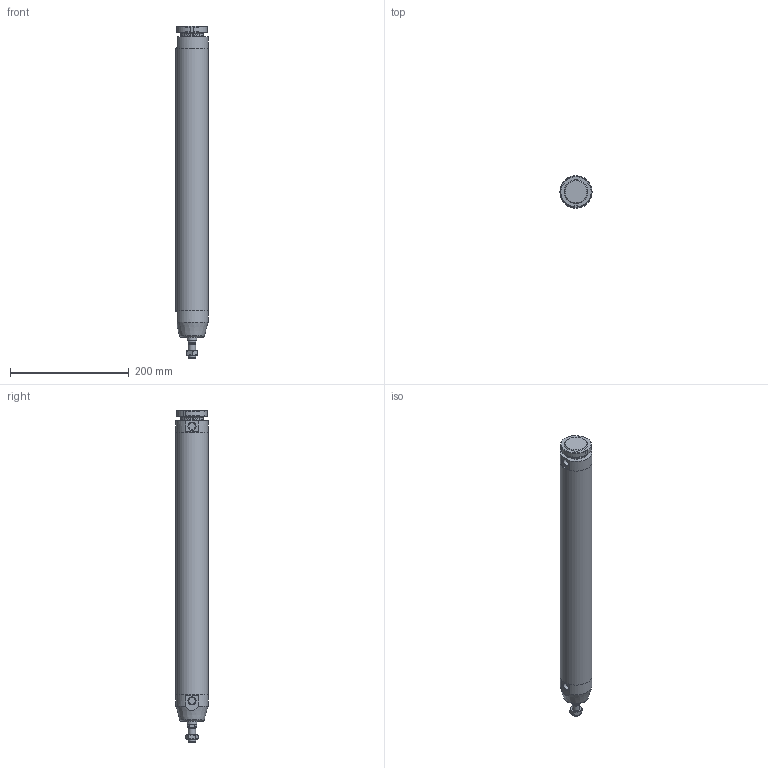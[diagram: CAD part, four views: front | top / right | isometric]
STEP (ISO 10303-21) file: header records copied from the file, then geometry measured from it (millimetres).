
FILE_DESCRIPTION(/* description */ (''),/* implementation_level */ '2;1');
FILE_NAME(/* name */ 'I:\Area Tecnica\Documenti\A-Manieri\_Inventor\12X\12X#B_###_####_#_#\12XAB_050_0400_#_#.stp',/* time_stamp */ '2015-04-27T16:25:51+02:00',/* author */ ('maniean1'),/* organization */ ('Pneumax S.p.A.'),/* preprocessor_version */ 'ST-DEVELOPER v15.2',/* originating_system */ 'Autodesk Inventor 2014',/* authorisation */ '');
FILE_SCHEMA (('AUTOMOTIVE_DESIGN { 1 0 10303 214 3 1 1 }'));
Length unit declared in the file: millimetre
Products named in the file (7): C1250_619-0400; 12X50_613; S12X50_0400; 12X_50_11; 12X50_620; G12X_050_05; 12XAB_050_0400_#_#
Bounding box: 54 x 54 x 560 mm (x, y, z)
Volume: 477952.9 mm3; surface area: 207861.9 mm2
Topology: 6 solids, 6 shells, 80 faces, 175 edges, 112 vertices
Faces by surface type: plane 40, cylinder 20, cone 19, torus 1
Full cylindrical faces by diameter (mm): 10.2 x1, 11.4 x2, 12 x2, 14 x1, 15.6 x1, 16 x1, 38.2 x1, 40 x3, 50 x2, 54 x3
Entity records: 2134 total; most frequent: CARTESIAN_POINT 399, DIRECTION 359, ORIENTED_EDGE 282, AXIS2_PLACEMENT_3D 154, EDGE_CURVE 141, EDGE_LOOP 122, VERTEX_POINT 107, ADVANCED_FACE 80
